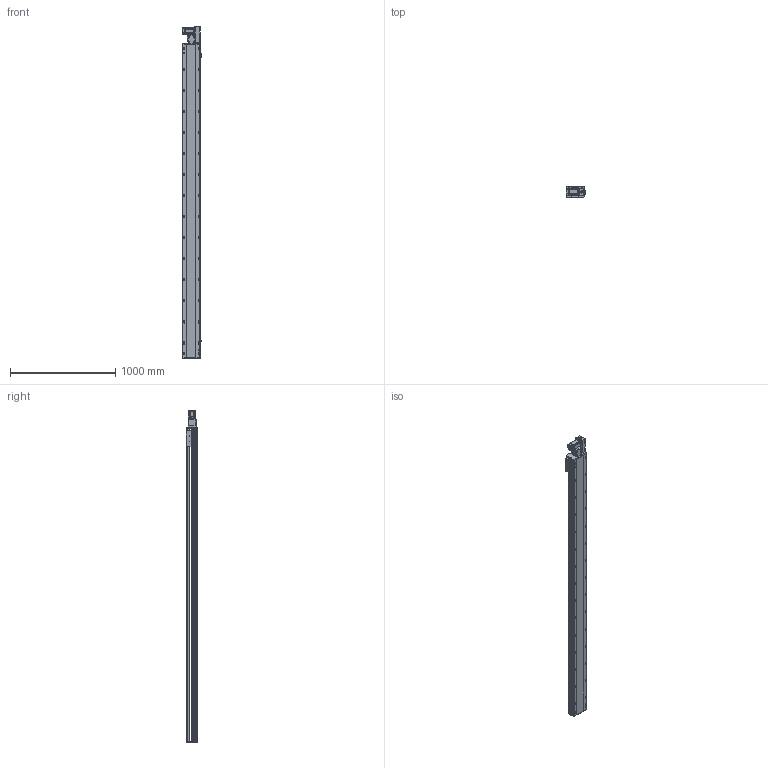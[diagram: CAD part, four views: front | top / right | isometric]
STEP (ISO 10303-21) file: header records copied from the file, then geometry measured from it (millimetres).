
FILE_DESCRIPTION (( 'STEP AP214' ), '1' );
FILE_NAME ('TPT17M-L40-2700-R-T40-C4.STEP', '2023-03-24T07:07:17', ( '' ), ( '' ), 'SwSTEP 2.0', 'SolidWorks 2020', '' );
FILE_SCHEMA (( 'AUTOMOTIVE_DESIGN' ));
Length unit declared in the file: millimetre
Products named in the file (11): 葩璃 TPT17-L-002 奻裔MZ-170-05^TPT17M-L40-R-T40-C4; hex nuts, style 1-grades ab gb_GB_FASTENER_NUT_SNAB1 M3-N; 葩璃 TPT17-L-007 々湍釱MZ-169x88^TPT17M-L40-R-T40-C4_TPT17M; 葩璃 TPT17-L-001 菁釱MZ-170-01^TPT17M-L40-R-T40-C4; 葩璃 TPT14-L-009 萇儂啣^TPT17M-L40-R-T40-C4_400W; 葩璃 TPT17-L-005 賑釱MZ-170-07^TPT17M-L40-R-T40-C4; 葩璃 侂狟400W^TPT17M-L40-R-T40-C4; TPT17M-L40-2700-R-T40-C4; hexagon head bolts-full thread gb_GB_FASTENER_BOLT_STBAB A M5X16-N; hexagon socket head cap screws gb_GB_FASTENER_SCREWS_HSHCS M3X6-N; 葩璃 pm-t65-672^TPT17M-L40-R-T40-C4
Assembly tree (22 placements, depth 2):
  TPT17M-L40-2700-R-T40-C4
    葩璃 TPT17-L-001 菁釱MZ-170-01^TPT17M-L40-R-T40-C4
    葩璃 TPT17-L-002 奻裔MZ-170-05^TPT17M-L40-R-T40-C4
    葩璃 TPT17-L-005 賑釱MZ-170-07^TPT17M-L40-R-T40-C4
    葩璃 TPT17-L-007 々湍釱MZ-169x88^TPT17M-L40-R-T40-C4_TPT17M
    葩璃 TPT14-L-009 萇儂啣^TPT17M-L40-R-T40-C4_400W
    葩璃 pm-t65-672^TPT17M-L40-R-T40-C4  x3
    葩璃 侂狟400W^TPT17M-L40-R-T40-C4
    hexagon socket head cap screws gb_GB_FASTENER_SCREWS_HSHCS M3X6-N  x6
    hex nuts, style 1-grades ab gb_GB_FASTENER_NUT_SNAB1 M3-N  x6
    hexagon head bolts-full thread gb_GB_FASTENER_BOLT_STBAB A M5X16-N
Bounding box: 186.2 x 108 x 3156.65 mm (x, y, z)
Volume: 31256155 mm3; surface area: 2985108.7 mm2
Topology: 30 solids, 30 shells, 1879 faces, 4802 edges, 3024 vertices
Faces by surface type: plane 939, cylinder 652, cone 250, bspline 26, torus 12
Entity records: 46453 total; most frequent: CARTESIAN_POINT 8696, DIRECTION 7677, ORIENTED_EDGE 7128, EDGE_CURVE 3564, AXIS2_PLACEMENT_3D 2768, VERTEX_POINT 2315, VECTOR 2141, LINE 2141
